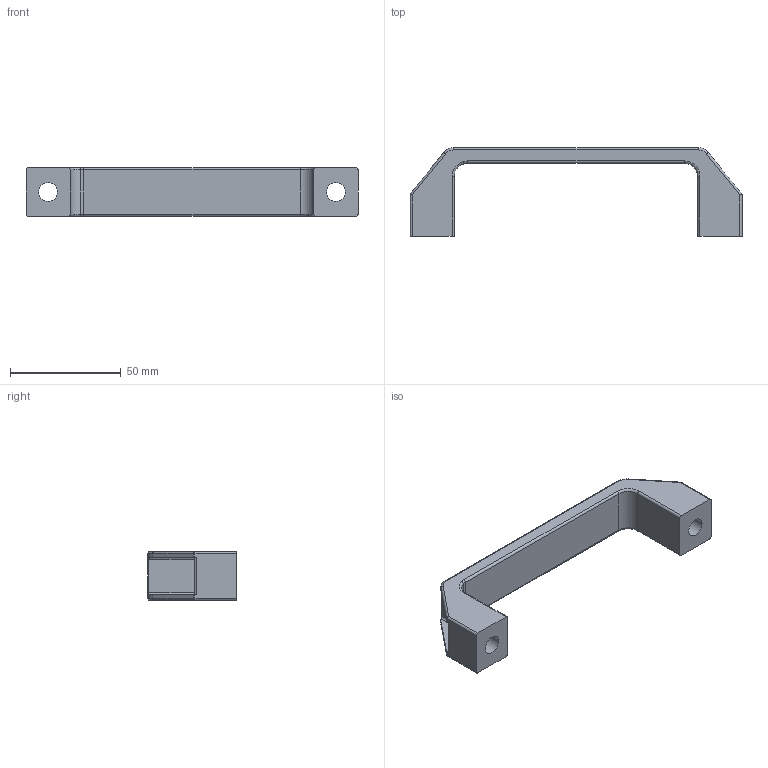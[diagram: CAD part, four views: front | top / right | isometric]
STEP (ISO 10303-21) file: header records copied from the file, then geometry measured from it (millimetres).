
FILE_DESCRIPTION(/* description */ (''),/* implementation_level */ '2;1');
FILE_NAME(/* name */ '\\NAS\db20\A-AS130\DR_A-AS130.stp',/* time_stamp */ '2017-07-06T16:27:17+09:00',/* author */ ('user'),/* organization */ (''),/* preprocessor_version */ 'ST-DEVELOPER v15.6',/* originating_system */ 'Autodesk Inventor 2015',/* authorisation */ '');
FILE_SCHEMA (('AUTOMOTIVE_DESIGN { 1 0 10303 214 3 1 1 }'));
Length unit declared in the file: millimetre
Products named in the file (1): DR_A-AS130
Bounding box: 150 x 40 x 22 mm (x, y, z)
Volume: 33926.9 mm3; surface area: 15139.6 mm2
Topology: 1 solids, 1 shells, 71 faces, 171 edges, 104 vertices
Faces by surface type: cylinder 33, plane 24, torus 10, sphere 4
Full cylindrical faces by diameter (mm): 8.5 x2, 14 x2
Entity records: 2105 total; most frequent: DIRECTION 387, CARTESIAN_POINT 379, ORIENTED_EDGE 334, EDGE_CURVE 167, AXIS2_PLACEMENT_3D 152, VERTEX_POINT 104, LINE 83, VECTOR 83
